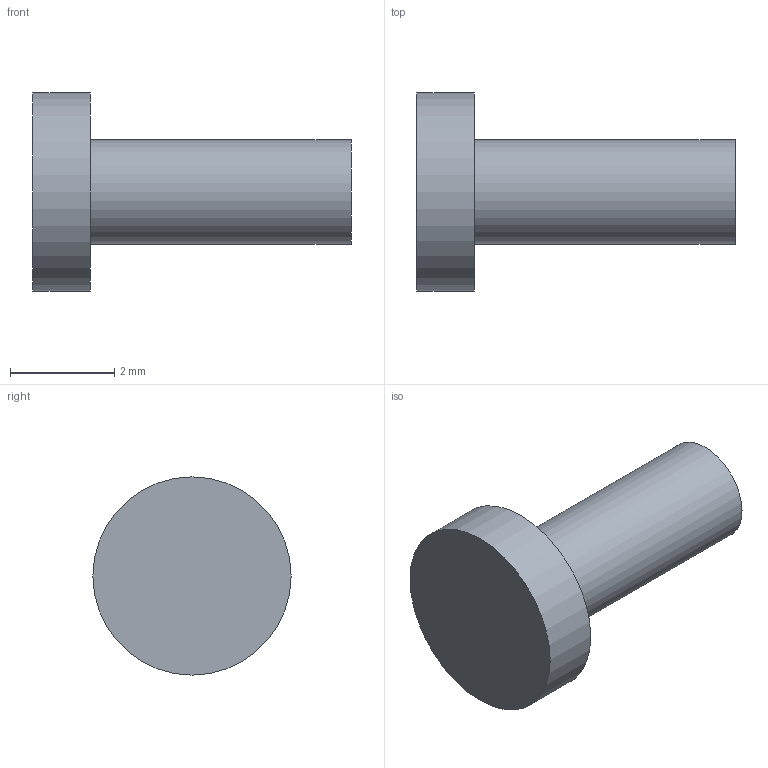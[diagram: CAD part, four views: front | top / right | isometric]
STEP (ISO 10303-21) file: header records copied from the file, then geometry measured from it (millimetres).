
FILE_DESCRIPTION(('Open CASCADE Model'),'2;1');
FILE_NAME('Open CASCADE Shape Model','2026-11-24T19:57:40',('Author'),( 'Open CASCADE'),'Open CASCADE STEP processor 7.8','Open CASCADE 7.8' ,'Unknown');
FILE_SCHEMA(('AUTOMOTIVE_DESIGN { 1 0 10303 214 1 1 1 1 }'));
Length unit declared in the file: millimetre
Products named in the file (1): Open CASCADE STEP translator 7.8 137
Bounding box: 6.1 x 3.8 x 3.8 mm (x, y, z)
Volume: 28.2 mm3; surface area: 67.2 mm2
Topology: 1 solids, 1 shells, 5 faces, 6 edges, 4 vertices
Faces by surface type: plane 3, cylinder 2
Full cylindrical faces by diameter (mm): 2 x1, 3.8 x1
Entity records: 190 total; most frequent: DIRECTION 32, CARTESIAN_POINT 30, ORIENTED_EDGE 12, PCURVE 12, DEFINITIONAL_REPRESENTATION 12, AXIS2_PLACEMENT_3D 10, CIRCLE 8, LINE 8
